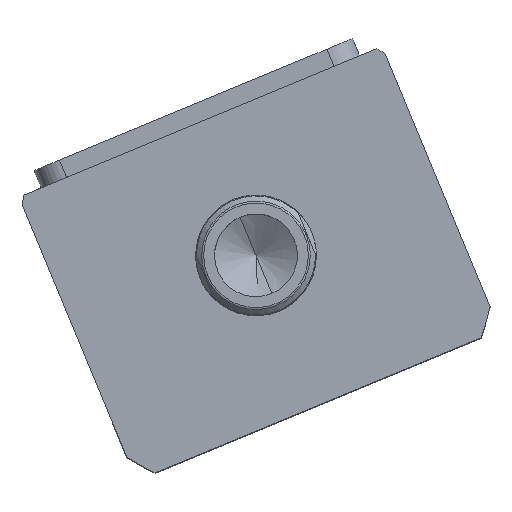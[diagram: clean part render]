
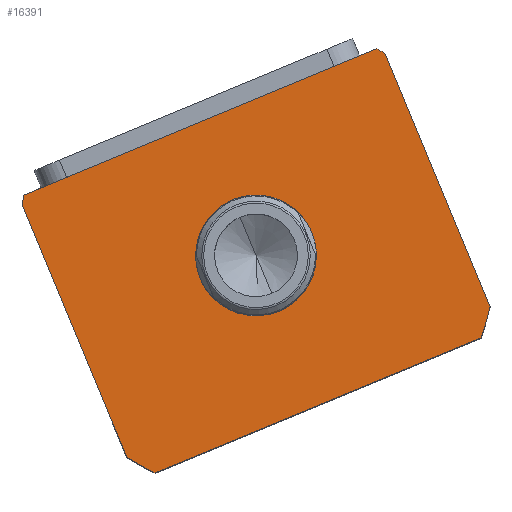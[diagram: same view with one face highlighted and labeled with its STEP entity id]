
A CAD part, top view. The second image highlights one B-rep face of the part: STEP entity #16391.
In plain terms, the highlighted planar face has unit normal (0, 0, 1) as drawn and (0, 0, -1) by its records, which use the part's own axes.
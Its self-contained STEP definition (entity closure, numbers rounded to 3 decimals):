
#543 = FACE_BOUND ( 'NONE', #12321, .T. ) ;
#597 = AXIS2_PLACEMENT_3D ( 'NONE', #16159, #7620, #17593 ) ;
#1006 = EDGE_CURVE ( 'NONE', #7146, #16109, #18724, .T. ) ;
#1022 = CARTESIAN_POINT ( 'NONE',  ( 55.374, -17.497, 0. ) ) ;
#1371 = CARTESIAN_POINT ( 'NONE',  ( -17.5, -59.497, 0. ) ) ;
#1372 = DIRECTION ( 'NONE',  ( 0., 0., 1. ) ) ;
#1478 = LINE ( 'NONE', #3288, #16847 ) ;
#1479 = CARTESIAN_POINT ( 'NONE',  ( 0., 0., 0. ) ) ;
#1982 = VECTOR ( 'NONE', #11818, 1000. ) ;
#1989 = EDGE_CURVE ( 'NONE', #4431, #7319, #17570, .T. ) ;
#2018 = CARTESIAN_POINT ( 'NONE',  ( 57., -99.262, 0. ) ) ;
#2190 = ORIENTED_EDGE ( 'NONE', *, *, #14946, .F. ) ;
#2227 = VERTEX_POINT ( 'NONE', #7962 ) ;
#2733 = EDGE_CURVE ( 'NONE', #17675, #10323, #15326, .T. ) ;
#2834 = AXIS2_PLACEMENT_3D ( 'NONE', #15067, #6504, #16500 ) ;
#3146 = EDGE_CURVE ( 'NONE', #18373, #2227, #16891, .T. ) ;
#3288 = CARTESIAN_POINT ( 'NONE',  ( -57., -106.497, 0. ) ) ;
#3802 = CIRCLE ( 'NONE', #12181, 69.5 ) ;
#4400 = CARTESIAN_POINT ( 'NONE',  ( -57., -17.497, 0. ) ) ;
#4431 = VERTEX_POINT ( 'NONE', #13521 ) ;
#4458 = DIRECTION ( 'NONE',  ( 0., 0., 1. ) ) ;
#4718 = LINE ( 'NONE', #8701, #7263 ) ;
#4864 = VERTEX_POINT ( 'NONE', #9729 ) ;
#5033 = DIRECTION ( 'NONE',  ( 0., -1., 0. ) ) ;
#5357 = DIRECTION ( 'NONE',  ( 0., 0., 1. ) ) ;
#5393 = EDGE_CURVE ( 'NONE', #2227, #4431, #14848, .T. ) ;
#5429 = EDGE_CURVE ( 'NONE', #16109, #4864, #4718, .T. ) ;
#5484 = AXIS2_PLACEMENT_3D ( 'NONE', #15851, #15791, #15724 ) ;
#5781 = ORIENTED_EDGE ( 'NONE', *, *, #5393, .F. ) ;
#5958 = EDGE_CURVE ( 'NONE', #8314, #7146, #1478, .T. ) ;
#6010 = ORIENTED_EDGE ( 'NONE', *, *, #3146, .F. ) ;
#6081 = CIRCLE ( 'NONE', #2834, 69.5 ) ;
#6216 = ORIENTED_EDGE ( 'NONE', *, *, #5958, .F. ) ;
#6504 = DIRECTION ( 'NONE',  ( 0., 0., 1. ) ) ;
#7146 = VERTEX_POINT ( 'NONE', #15186 ) ;
#7263 = VECTOR ( 'NONE', #17239, 1000. ) ;
#7319 = VERTEX_POINT ( 'NONE', #18618 ) ;
#7365 = PLANE ( 'NONE',  #15636 ) ;
#7620 = DIRECTION ( 'NONE',  ( 0., 0., 1. ) ) ;
#7665 = EDGE_CURVE ( 'NONE', #10323, #17675, #11059, .T. ) ;
#7735 = DIRECTION ( 'NONE',  ( 1., 0., 0. ) ) ;
#7763 = AXIS2_PLACEMENT_3D ( 'NONE', #10145, #1372, #11589 ) ;
#7962 = CARTESIAN_POINT ( 'NONE',  ( -55.374, -17.497, 0. ) ) ;
#8314 = VERTEX_POINT ( 'NONE', #12036 ) ;
#8631 = ORIENTED_EDGE ( 'NONE', *, *, #1989, .F. ) ;
#8701 = CARTESIAN_POINT ( 'NONE',  ( 57., -17.497, 0. ) ) ;
#9072 = EDGE_LOOP ( 'NONE', ( #2190, #11699, #15198, #6216, #17141, #8631, #5781, #6010 ) ) ;
#9729 = CARTESIAN_POINT ( 'NONE',  ( 57., -19.732, 0. ) ) ;
#10001 = VECTOR ( 'NONE', #5033, 1000. ) ;
#10145 = CARTESIAN_POINT ( 'NONE',  ( 0., -59.497, 0. ) ) ;
#10323 = VERTEX_POINT ( 'NONE', #15144 ) ;
#11059 = CIRCLE ( 'NONE', #597, 17.5 ) ;
#11070 = AXIS2_PLACEMENT_3D ( 'NONE', #15914, #15204, #15139 ) ;
#11589 = DIRECTION ( 'NONE',  ( 1., 0., 0. ) ) ;
#11699 = ORIENTED_EDGE ( 'NONE', *, *, #5429, .F. ) ;
#11761 = FACE_OUTER_BOUND ( 'NONE', #9072, .T. ) ;
#11818 = DIRECTION ( 'NONE',  ( -1., 0., 0. ) ) ;
#12036 = CARTESIAN_POINT ( 'NONE',  ( -51.198, -106.497, 0. ) ) ;
#12181 = AXIS2_PLACEMENT_3D ( 'NONE', #13957, #5357, #15406 ) ;
#12321 = EDGE_LOOP ( 'NONE', ( #17650, #14940 ) ) ;
#13216 = CARTESIAN_POINT ( 'NONE',  ( -57., -17.497, 0. ) ) ;
#13521 = CARTESIAN_POINT ( 'NONE',  ( -57., -19.732, 0. ) ) ;
#13957 = CARTESIAN_POINT ( 'NONE',  ( 0., -59.497, 0. ) ) ;
#14520 = DIRECTION ( 'NONE',  ( 1., 0., 0. ) ) ;
#14848 = CIRCLE ( 'NONE', #7763, 69.5 ) ;
#14940 = ORIENTED_EDGE ( 'NONE', *, *, #2733, .T. ) ;
#14946 = EDGE_CURVE ( 'NONE', #4864, #18373, #6081, .T. ) ;
#15067 = CARTESIAN_POINT ( 'NONE',  ( 0., -59.497, 0. ) ) ;
#15139 = DIRECTION ( 'NONE',  ( 1., 0., 0. ) ) ;
#15144 = CARTESIAN_POINT ( 'NONE',  ( 17.5, -59.497, 0. ) ) ;
#15186 = CARTESIAN_POINT ( 'NONE',  ( 51.198, -106.497, 0. ) ) ;
#15198 = ORIENTED_EDGE ( 'NONE', *, *, #1006, .F. ) ;
#15204 = DIRECTION ( 'NONE',  ( 0., 0., 1. ) ) ;
#15326 = CIRCLE ( 'NONE', #5484, 17.5 ) ;
#15406 = DIRECTION ( 'NONE',  ( 1., 0., 0. ) ) ;
#15636 = AXIS2_PLACEMENT_3D ( 'NONE', #1479, #4458, #14520 ) ;
#15724 = DIRECTION ( 'NONE',  ( 1., 0., 0. ) ) ;
#15743 = EDGE_CURVE ( 'NONE', #7319, #8314, #3802, .T. ) ;
#15791 = DIRECTION ( 'NONE',  ( 0., 0., 1. ) ) ;
#15851 = CARTESIAN_POINT ( 'NONE',  ( 0., -59.497, 0. ) ) ;
#15914 = CARTESIAN_POINT ( 'NONE',  ( 0., -59.497, 0. ) ) ;
#16109 = VERTEX_POINT ( 'NONE', #2018 ) ;
#16159 = CARTESIAN_POINT ( 'NONE',  ( 0., -59.497, 0. ) ) ;
#16391 = ADVANCED_FACE ( 'NONE', ( #543, #11761 ), #7365, .F. ) ;
#16500 = DIRECTION ( 'NONE',  ( 1., 0., 0. ) ) ;
#16847 = VECTOR ( 'NONE', #7735, 1000. ) ;
#16891 = LINE ( 'NONE', #13216, #1982 ) ;
#17141 = ORIENTED_EDGE ( 'NONE', *, *, #15743, .F. ) ;
#17239 = DIRECTION ( 'NONE',  ( 0., 1., 0. ) ) ;
#17570 = LINE ( 'NONE', #4400, #10001 ) ;
#17593 = DIRECTION ( 'NONE',  ( 1., 0., 0. ) ) ;
#17650 = ORIENTED_EDGE ( 'NONE', *, *, #7665, .T. ) ;
#17675 = VERTEX_POINT ( 'NONE', #1371 ) ;
#18373 = VERTEX_POINT ( 'NONE', #1022 ) ;
#18618 = CARTESIAN_POINT ( 'NONE',  ( -57., -99.262, 0. ) ) ;
#18724 = CIRCLE ( 'NONE', #11070, 69.5 ) ;
